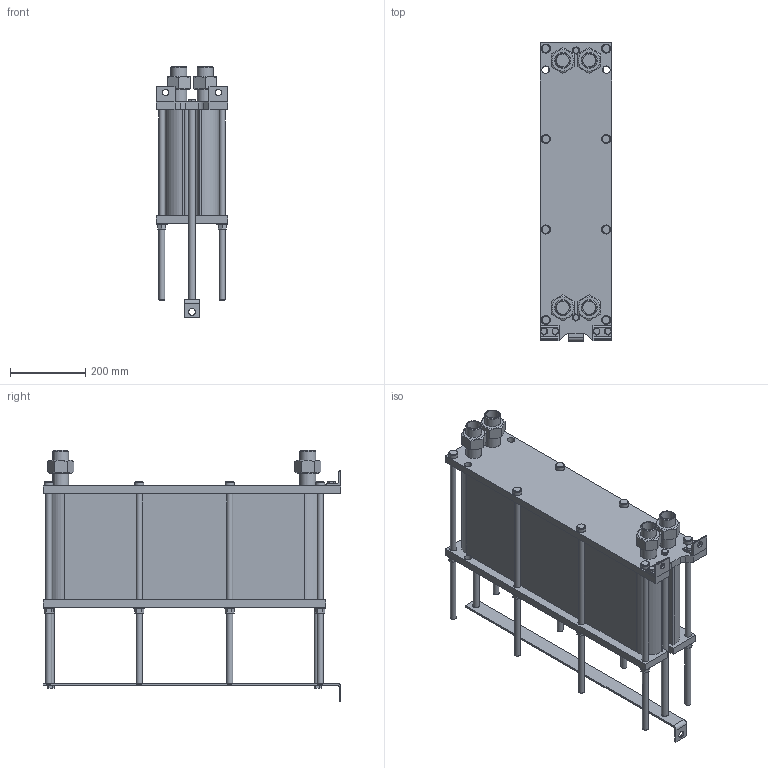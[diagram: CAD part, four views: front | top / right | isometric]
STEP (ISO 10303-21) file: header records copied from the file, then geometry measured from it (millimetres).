
FILE_DESCRIPTION(/* description */ (''),/* implementation_level */ '2;1');
FILE_NAME(/* name */ 'C:\Users\zhuro\Desktop\ENCO\TO\ЭН-008\ЭН-0,5-008-91-1.stp',/* time_stamp */ '2022-06-06T10:53:47+03:00',/* author */ ('zhuro'),/* organization */ (''),/* preprocessor_version */ 'ST-DEVELOPER v18.1',/* originating_system */ 'Autodesk Inventor 2022',/* authorisation */ '');
FILE_SCHEMA (('AUTOMOTIVE_DESIGN { 1 0 10303 214 3 1 1 }'));
Length unit declared in the file: millimetre
Products named in the file (1): ЭН-0,5-008-91-1
Bounding box: 190 x 790 x 665.8 mm (x, y, z)
Volume: 35689189.2 mm3; surface area: 1945395.3 mm2
Topology: 40 solids, 40 shells, 428 faces, 924 edges, 606 vertices
Faces by surface type: plane 273, cylinder 109, cone 40, torus 6
Full cylindrical faces by diameter (mm): 12 x6, 14 x2, 16 x20, 17 x8, 18 x19, 20 x5, 24 x8, 28 x8, 34.3 x8, 42.3 x8
Entity records: 15843 total; most frequent: CARTESIAN_POINT 5991, DIRECTION 1984, ORIENTED_EDGE 1848, EDGE_CURVE 924, AXIS2_PLACEMENT_3D 715, VERTEX_POINT 606, LINE 554, VECTOR 554
